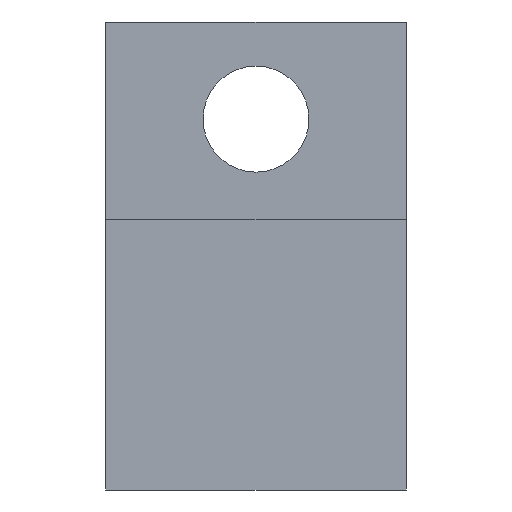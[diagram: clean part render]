
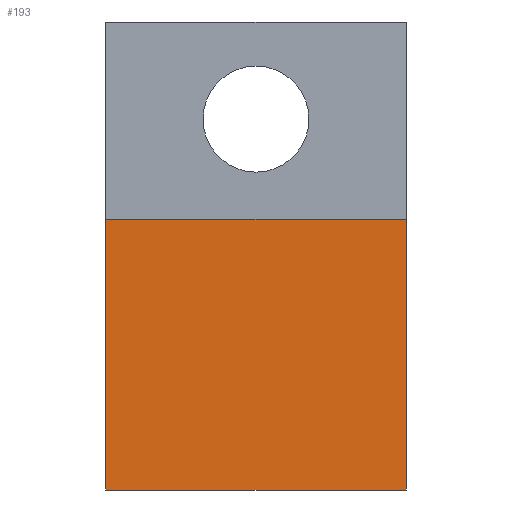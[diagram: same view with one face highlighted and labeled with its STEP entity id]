
A CAD part, front view. The second image highlights one B-rep face of the part: STEP entity #193.
In plain terms, the highlighted planar face has unit normal (0, -1, 0).
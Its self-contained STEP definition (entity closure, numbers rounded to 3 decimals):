
#21 = EDGE_CURVE('',#22,#24,#26,.T.);
#22 = VERTEX_POINT('',#23);
#23 = CARTESIAN_POINT('',(48.,-2.3,14.5));
#24 = VERTEX_POINT('',#25);
#25 = CARTESIAN_POINT('',(48.,-2.3,23.7));
#26 = SURFACE_CURVE('',#27,(#31,#43),.PCURVE_S1.);
#27 = LINE('',#28,#29);
#28 = CARTESIAN_POINT('',(48.,-2.3,14.5));
#29 = VECTOR('',#30,1.);
#30 = DIRECTION('',(0.,0.,1.));
#31 = PCURVE('',#32,#37);
#32 = PLANE('',#33);
#33 = AXIS2_PLACEMENT_3D('',#34,#35,#36);
#34 = CARTESIAN_POINT('',(48.,-2.3,14.5));
#35 = DIRECTION('',(1.,0.,0.));
#36 = DIRECTION('',(0.,0.,1.));
#37 = DEFINITIONAL_REPRESENTATION('',(#38),#42);
#38 = LINE('',#39,#40);
#39 = CARTESIAN_POINT('',(0.,0.));
#40 = VECTOR('',#41,1.);
#41 = DIRECTION('',(1.,0.));
#42 = ( GEOMETRIC_REPRESENTATION_CONTEXT(2) 
PARAMETRIC_REPRESENTATION_CONTEXT() REPRESENTATION_CONTEXT('2D SPACE',''
  ) );
#43 = PCURVE('',#44,#49);
#44 = PLANE('',#45);
#45 = AXIS2_PLACEMENT_3D('',#46,#47,#48);
#46 = CARTESIAN_POINT('',(48.,-2.3,14.5));
#47 = DIRECTION('',(0.,1.,0.));
#48 = DIRECTION('',(0.,0.,1.));
#49 = DEFINITIONAL_REPRESENTATION('',(#50),#54);
#50 = LINE('',#51,#52);
#51 = CARTESIAN_POINT('',(0.,0.));
#52 = VECTOR('',#53,1.);
#53 = DIRECTION('',(1.,0.));
#54 = ( GEOMETRIC_REPRESENTATION_CONTEXT(2) 
PARAMETRIC_REPRESENTATION_CONTEXT() REPRESENTATION_CONTEXT('2D SPACE',''
  ) );
#72 = PLANE('',#73);
#73 = AXIS2_PLACEMENT_3D('',#74,#75,#76);
#74 = CARTESIAN_POINT('',(48.,-2.3,14.5));
#75 = DIRECTION('',(0.,0.,1.));
#76 = DIRECTION('',(1.,0.,0.));
#182 = PLANE('',#183);
#183 = AXIS2_PLACEMENT_3D('',#184,#185,#186);
#184 = CARTESIAN_POINT('',(48.,-2.3,23.7));
#185 = DIRECTION('',(0.,0.,1.));
#186 = DIRECTION('',(1.,0.,0.));
#193 = ADVANCED_FACE('',(#194),#44,.F.);
#194 = FACE_BOUND('',#195,.F.);
#195 = EDGE_LOOP('',(#196,#219,#220,#243));
#196 = ORIENTED_EDGE('',*,*,#197,.F.);
#197 = EDGE_CURVE('',#22,#198,#200,.T.);
#198 = VERTEX_POINT('',#199);
#199 = CARTESIAN_POINT('',(58.2,-2.3,14.5));
#200 = SURFACE_CURVE('',#201,(#205,#212),.PCURVE_S1.);
#201 = LINE('',#202,#203);
#202 = CARTESIAN_POINT('',(48.,-2.3,14.5));
#203 = VECTOR('',#204,1.);
#204 = DIRECTION('',(1.,0.,0.));
#205 = PCURVE('',#44,#206);
#206 = DEFINITIONAL_REPRESENTATION('',(#207),#211);
#207 = LINE('',#208,#209);
#208 = CARTESIAN_POINT('',(0.,0.));
#209 = VECTOR('',#210,1.);
#210 = DIRECTION('',(0.,1.));
#211 = ( GEOMETRIC_REPRESENTATION_CONTEXT(2) 
PARAMETRIC_REPRESENTATION_CONTEXT() REPRESENTATION_CONTEXT('2D SPACE',''
  ) );
#212 = PCURVE('',#72,#213);
#213 = DEFINITIONAL_REPRESENTATION('',(#214),#218);
#214 = LINE('',#215,#216);
#215 = CARTESIAN_POINT('',(0.,0.));
#216 = VECTOR('',#217,1.);
#217 = DIRECTION('',(1.,0.));
#218 = ( GEOMETRIC_REPRESENTATION_CONTEXT(2) 
PARAMETRIC_REPRESENTATION_CONTEXT() REPRESENTATION_CONTEXT('2D SPACE',''
  ) );
#219 = ORIENTED_EDGE('',*,*,#21,.T.);
#220 = ORIENTED_EDGE('',*,*,#221,.T.);
#221 = EDGE_CURVE('',#24,#222,#224,.T.);
#222 = VERTEX_POINT('',#223);
#223 = CARTESIAN_POINT('',(58.2,-2.3,23.7));
#224 = SURFACE_CURVE('',#225,(#229,#236),.PCURVE_S1.);
#225 = LINE('',#226,#227);
#226 = CARTESIAN_POINT('',(48.,-2.3,23.7));
#227 = VECTOR('',#228,1.);
#228 = DIRECTION('',(1.,0.,0.));
#229 = PCURVE('',#44,#230);
#230 = DEFINITIONAL_REPRESENTATION('',(#231),#235);
#231 = LINE('',#232,#233);
#232 = CARTESIAN_POINT('',(9.2,0.));
#233 = VECTOR('',#234,1.);
#234 = DIRECTION('',(0.,1.));
#235 = ( GEOMETRIC_REPRESENTATION_CONTEXT(2) 
PARAMETRIC_REPRESENTATION_CONTEXT() REPRESENTATION_CONTEXT('2D SPACE',''
  ) );
#236 = PCURVE('',#182,#237);
#237 = DEFINITIONAL_REPRESENTATION('',(#238),#242);
#238 = LINE('',#239,#240);
#239 = CARTESIAN_POINT('',(0.,0.));
#240 = VECTOR('',#241,1.);
#241 = DIRECTION('',(1.,0.));
#242 = ( GEOMETRIC_REPRESENTATION_CONTEXT(2) 
PARAMETRIC_REPRESENTATION_CONTEXT() REPRESENTATION_CONTEXT('2D SPACE',''
  ) );
#243 = ORIENTED_EDGE('',*,*,#244,.F.);
#244 = EDGE_CURVE('',#198,#222,#245,.T.);
#245 = SURFACE_CURVE('',#246,(#250,#257),.PCURVE_S1.);
#246 = LINE('',#247,#248);
#247 = CARTESIAN_POINT('',(58.2,-2.3,14.5));
#248 = VECTOR('',#249,1.);
#249 = DIRECTION('',(0.,0.,1.));
#250 = PCURVE('',#44,#251);
#251 = DEFINITIONAL_REPRESENTATION('',(#252),#256);
#252 = LINE('',#253,#254);
#253 = CARTESIAN_POINT('',(0.,10.2));
#254 = VECTOR('',#255,1.);
#255 = DIRECTION('',(1.,0.));
#256 = ( GEOMETRIC_REPRESENTATION_CONTEXT(2) 
PARAMETRIC_REPRESENTATION_CONTEXT() REPRESENTATION_CONTEXT('2D SPACE',''
  ) );
#257 = PCURVE('',#258,#263);
#258 = PLANE('',#259);
#259 = AXIS2_PLACEMENT_3D('',#260,#261,#262);
#260 = CARTESIAN_POINT('',(58.2,-2.3,14.5));
#261 = DIRECTION('',(1.,0.,0.));
#262 = DIRECTION('',(0.,0.,1.));
#263 = DEFINITIONAL_REPRESENTATION('',(#264),#268);
#264 = LINE('',#265,#266);
#265 = CARTESIAN_POINT('',(0.,0.));
#266 = VECTOR('',#267,1.);
#267 = DIRECTION('',(1.,0.));
#268 = ( GEOMETRIC_REPRESENTATION_CONTEXT(2) 
PARAMETRIC_REPRESENTATION_CONTEXT() REPRESENTATION_CONTEXT('2D SPACE',''
  ) );
